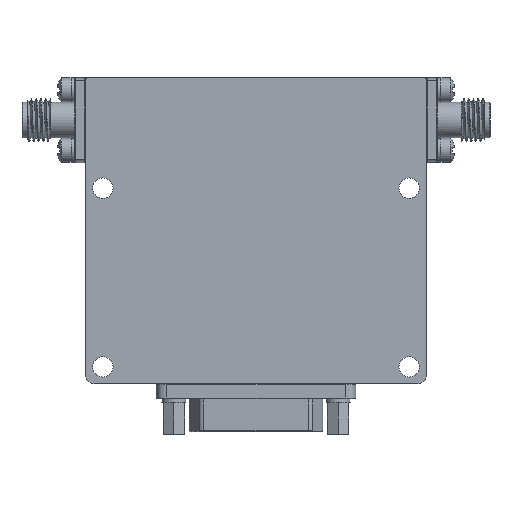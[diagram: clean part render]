
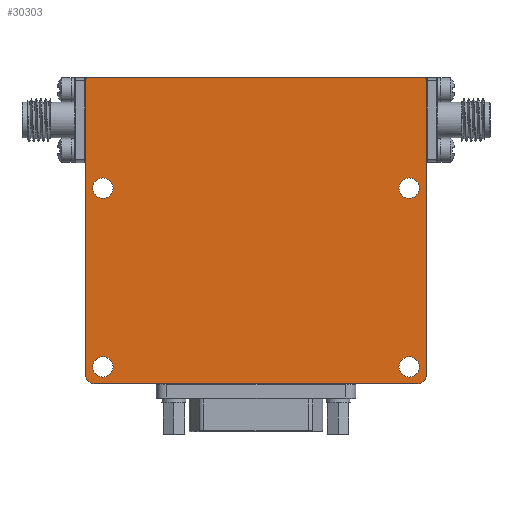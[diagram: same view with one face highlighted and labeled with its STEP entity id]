
A CAD part, front view. The second image highlights one B-rep face of the part: STEP entity #30303.
In plain terms, the highlighted planar face has unit normal (0, -1, 0).
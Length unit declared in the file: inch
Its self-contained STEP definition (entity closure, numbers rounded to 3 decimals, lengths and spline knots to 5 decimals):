
#405 = CARTESIAN_POINT ( 'NONE',  ( 1.9, -0.5, -1.7 ) ) ;
#419 = EDGE_CURVE ( 'NONE', #39046, #24033, #51350, .T. ) ;
#1905 = CIRCLE ( 'NONE', #36423, 0.05 ) ;
#2442 = DIRECTION ( 'NONE',  ( 0., 0., -1. ) ) ;
#2511 = CARTESIAN_POINT ( 'NONE',  ( 0., -0.5, -1.75 ) ) ;
#2832 = EDGE_CURVE ( 'NONE', #15837, #62790, #15778, .T. ) ;
#4079 = DIRECTION ( 'NONE',  ( 0., 1., 0. ) ) ;
#4447 = EDGE_LOOP ( 'NONE', ( #46925 ) ) ;
#4771 = DIRECTION ( 'NONE',  ( 0., -1., 0. ) ) ;
#4970 = DIRECTION ( 'NONE',  ( 1., 0., 0. ) ) ;
#5001 = CARTESIAN_POINT ( 'NONE',  ( 1.95, -0.5, -1.8 ) ) ;
#6911 = CARTESIAN_POINT ( 'NONE',  ( 0.01, -0.5, 0. ) ) ;
#8666 = DIRECTION ( 'NONE',  ( 0., 1., 0. ) ) ;
#9455 = VECTOR ( 'NONE', #4970, 39.37008 ) ;
#9805 = EDGE_CURVE ( 'NONE', #55929, #16758, #39947, .T. ) ;
#10133 = CIRCLE ( 'NONE', #65201, 0.05 ) ;
#11614 = ORIENTED_EDGE ( 'NONE', *, *, #19249, .T. ) ;
#12092 = ORIENTED_EDGE ( 'NONE', *, *, #59259, .T. ) ;
#14128 = VERTEX_POINT ( 'NONE', #17192 ) ;
#14364 = CARTESIAN_POINT ( 'NONE',  ( 0.1, -0.5, -1.64 ) ) ;
#14389 = AXIS2_PLACEMENT_3D ( 'NONE', #24026, #4079, #60288 ) ;
#14564 = DIRECTION ( 'NONE',  ( 0., 0., -1. ) ) ;
#14585 = DIRECTION ( 'NONE',  ( 0., 0., -1. ) ) ;
#15586 = EDGE_CURVE ( 'NONE', #14128, #31173, #16850, .T. ) ;
#15778 = LINE ( 'NONE', #58102, #60837 ) ;
#15837 = VERTEX_POINT ( 'NONE', #40182 ) ;
#15938 = DIRECTION ( 'NONE',  ( 0., 0., 1. ) ) ;
#16441 = DIRECTION ( 'NONE',  ( 0., 0., 1. ) ) ;
#16758 = VERTEX_POINT ( 'NONE', #2511 ) ;
#16850 = LINE ( 'NONE', #32361, #64880 ) ;
#17192 = CARTESIAN_POINT ( 'NONE',  ( 2., -0.5, -0.01 ) ) ;
#18451 = AXIS2_PLACEMENT_3D ( 'NONE', #56049, #50274, #24841 ) ;
#18453 = ORIENTED_EDGE ( 'NONE', *, *, #419, .F. ) ;
#18893 = AXIS2_PLACEMENT_3D ( 'NONE', #49016, #22924, #43619 ) ;
#19039 = CIRCLE ( 'NONE', #37406, 0.01 ) ;
#19088 = EDGE_CURVE ( 'NONE', #62790, #31173, #1905, .T. ) ;
#19249 = EDGE_CURVE ( 'NONE', #22395, #22395, #44094, .T. ) ;
#20625 = CARTESIAN_POINT ( 'NONE',  ( 0.05, -0.5, -1.75 ) ) ;
#21533 = EDGE_LOOP ( 'NONE', ( #11614 ) ) ;
#21835 = FACE_OUTER_BOUND ( 'NONE', #61707, .T. ) ;
#22395 = VERTEX_POINT ( 'NONE', #59330 ) ;
#22589 = DIRECTION ( 'NONE',  ( 0., 0., -1. ) ) ;
#22924 = DIRECTION ( 'NONE',  ( 0., 1., 0. ) ) ;
#23838 = DIRECTION ( 'NONE',  ( 0., 0., -1. ) ) ;
#24026 = CARTESIAN_POINT ( 'NONE',  ( 1.9, -0.5, -0.65 ) ) ;
#24033 = VERTEX_POINT ( 'NONE', #62644 ) ;
#24841 = DIRECTION ( 'NONE',  ( 0., 0., 1. ) ) ;
#25031 = CARTESIAN_POINT ( 'NONE',  ( 0.01, -0.5, -0.01 ) ) ;
#25145 = CARTESIAN_POINT ( 'NONE',  ( 0.1, -0.5, -0.59 ) ) ;
#25880 = FACE_BOUND ( 'NONE', #4447, .T. ) ;
#26894 = DIRECTION ( 'NONE',  ( 1., 0., 0. ) ) ;
#28735 = EDGE_LOOP ( 'NONE', ( #12092 ) ) ;
#28920 = VERTEX_POINT ( 'NONE', #14364 ) ;
#28933 = AXIS2_PLACEMENT_3D ( 'NONE', #405, #62326, #15938 ) ;
#30303 = ADVANCED_FACE ( 'NONE', ( #51346, #36708, #25880, #57105, #21835 ), #57434, .F. ) ;
#31173 = VERTEX_POINT ( 'NONE', #53114 ) ;
#32361 = CARTESIAN_POINT ( 'NONE',  ( 2., -0.5, -0.01 ) ) ;
#33171 = CARTESIAN_POINT ( 'NONE',  ( 0., -0.5, -0.01 ) ) ;
#33727 = CIRCLE ( 'NONE', #42404, 0.01 ) ;
#35008 = AXIS2_PLACEMENT_3D ( 'NONE', #47242, #62836, #16441 ) ;
#36423 = AXIS2_PLACEMENT_3D ( 'NONE', #39404, #54383, #23838 ) ;
#36708 = FACE_BOUND ( 'NONE', #21533, .T. ) ;
#37406 = AXIS2_PLACEMENT_3D ( 'NONE', #25031, #40619, #14564 ) ;
#39046 = VERTEX_POINT ( 'NONE', #6911 ) ;
#39404 = CARTESIAN_POINT ( 'NONE',  ( 1.95, -0.5, -1.75 ) ) ;
#39432 = CIRCLE ( 'NONE', #18893, 0.06 ) ;
#39947 = LINE ( 'NONE', #33171, #59120 ) ;
#40076 = CARTESIAN_POINT ( 'NONE',  ( 1.9, -0.5, -0.59 ) ) ;
#40182 = CARTESIAN_POINT ( 'NONE',  ( 0.05, -0.5, -1.8 ) ) ;
#40619 = DIRECTION ( 'NONE',  ( 0., -1., 0. ) ) ;
#40883 = ORIENTED_EDGE ( 'NONE', *, *, #60396, .T. ) ;
#41429 = ORIENTED_EDGE ( 'NONE', *, *, #19088, .T. ) ;
#42404 = AXIS2_PLACEMENT_3D ( 'NONE', #54430, #8666, #44214 ) ;
#42537 = CIRCLE ( 'NONE', #14389, 0.06 ) ;
#42831 = ORIENTED_EDGE ( 'NONE', *, *, #66542, .T. ) ;
#43619 = DIRECTION ( 'NONE',  ( 0., 0., 1. ) ) ;
#44094 = CIRCLE ( 'NONE', #28933, 0.06 ) ;
#44214 = DIRECTION ( 'NONE',  ( 0., 0., 1. ) ) ;
#45117 = ORIENTED_EDGE ( 'NONE', *, *, #48465, .F. ) ;
#45430 = CARTESIAN_POINT ( 'NONE',  ( 0., -0.5, -0.01 ) ) ;
#46274 = CARTESIAN_POINT ( 'NONE',  ( 0.01, -0.5, 0. ) ) ;
#46403 = ORIENTED_EDGE ( 'NONE', *, *, #52191, .T. ) ;
#46925 = ORIENTED_EDGE ( 'NONE', *, *, #55089, .T. ) ;
#47242 = CARTESIAN_POINT ( 'NONE',  ( 1.99, -0.5, -0.01 ) ) ;
#48465 = EDGE_CURVE ( 'NONE', #24033, #14128, #33727, .T. ) ;
#49016 = CARTESIAN_POINT ( 'NONE',  ( 0.1, -0.5, -0.65 ) ) ;
#50274 = DIRECTION ( 'NONE',  ( 0., 1., 0. ) ) ;
#51346 = FACE_BOUND ( 'NONE', #55490, .T. ) ;
#51350 = LINE ( 'NONE', #46274, #9455 ) ;
#52191 = EDGE_CURVE ( 'NONE', #28920, #28920, #53087, .T. ) ;
#52867 = ORIENTED_EDGE ( 'NONE', *, *, #9805, .T. ) ;
#53087 = CIRCLE ( 'NONE', #18451, 0.06 ) ;
#53114 = CARTESIAN_POINT ( 'NONE',  ( 2., -0.5, -1.75 ) ) ;
#54383 = DIRECTION ( 'NONE',  ( 0., -1., 0. ) ) ;
#54430 = CARTESIAN_POINT ( 'NONE',  ( 1.99, -0.5, -0.01 ) ) ;
#55089 = EDGE_CURVE ( 'NONE', #65106, #65106, #42537, .T. ) ;
#55490 = EDGE_LOOP ( 'NONE', ( #46403 ) ) ;
#55929 = VERTEX_POINT ( 'NONE', #45430 ) ;
#56049 = CARTESIAN_POINT ( 'NONE',  ( 0.1, -0.5, -1.7 ) ) ;
#56353 = VERTEX_POINT ( 'NONE', #25145 ) ;
#57105 = FACE_BOUND ( 'NONE', #28735, .T. ) ;
#57434 = PLANE ( 'NONE',  #35008 ) ;
#58102 = CARTESIAN_POINT ( 'NONE',  ( 0.05, -0.5, -1.8 ) ) ;
#59120 = VECTOR ( 'NONE', #2442, 39.37008 ) ;
#59259 = EDGE_CURVE ( 'NONE', #56353, #56353, #39432, .T. ) ;
#59330 = CARTESIAN_POINT ( 'NONE',  ( 1.9, -0.5, -1.64 ) ) ;
#60288 = DIRECTION ( 'NONE',  ( 0., 0., 1. ) ) ;
#60396 = EDGE_CURVE ( 'NONE', #39046, #55929, #19039, .T. ) ;
#60837 = VECTOR ( 'NONE', #26894, 39.37008 ) ;
#61707 = EDGE_LOOP ( 'NONE', ( #45117, #18453, #40883, #52867, #42831, #65421, #41429, #66911 ) ) ;
#62326 = DIRECTION ( 'NONE',  ( 0., 1., 0. ) ) ;
#62644 = CARTESIAN_POINT ( 'NONE',  ( 1.99, -0.5, 0. ) ) ;
#62790 = VERTEX_POINT ( 'NONE', #5001 ) ;
#62836 = DIRECTION ( 'NONE',  ( 0., 1., 0. ) ) ;
#64880 = VECTOR ( 'NONE', #22589, 39.37008 ) ;
#65106 = VERTEX_POINT ( 'NONE', #40076 ) ;
#65201 = AXIS2_PLACEMENT_3D ( 'NONE', #20625, #4771, #14585 ) ;
#65421 = ORIENTED_EDGE ( 'NONE', *, *, #2832, .T. ) ;
#66542 = EDGE_CURVE ( 'NONE', #16758, #15837, #10133, .T. ) ;
#66911 = ORIENTED_EDGE ( 'NONE', *, *, #15586, .F. ) ;
